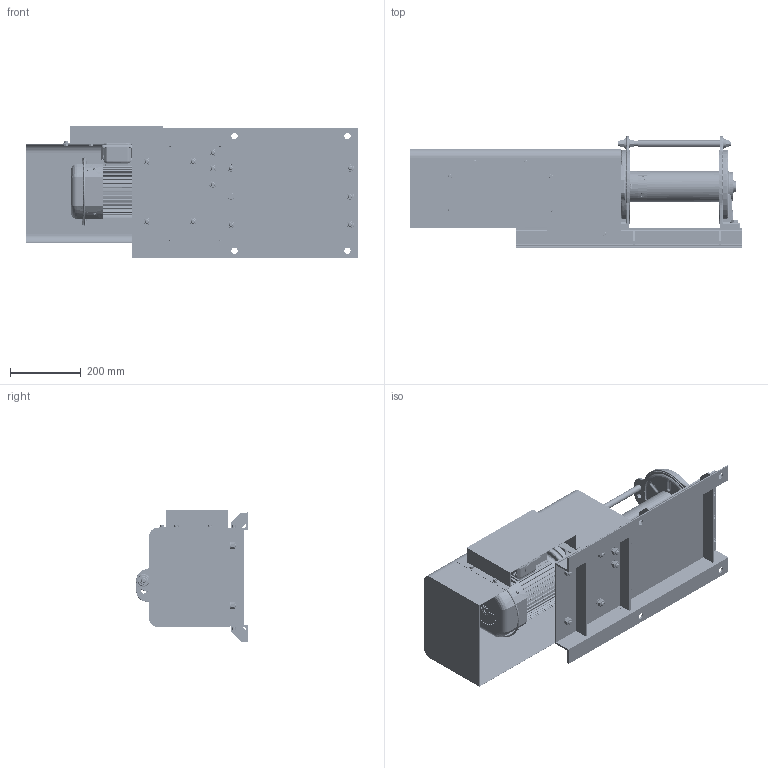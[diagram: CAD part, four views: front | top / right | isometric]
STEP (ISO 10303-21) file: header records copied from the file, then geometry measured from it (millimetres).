
FILE_DESCRIPTION( (''), '2;1');
FILE_NAME ('GME-700-NP.stp','2023-08-03T10:49:06',(''),(''),'spGate 19.8.2 (****-****-****-****)','','');
FILE_SCHEMA (('AUTOMOTIVE_DESIGN'));
Length unit declared in the file: millimetre
Products named in the file (2): Assembly; GME-700-NP-prt0
Assembly tree (1 placements, depth 2):
  Assembly
    GME-700-NP-prt0
Bounding box: 940.5 x 316 x 376 mm (x, y, z)
Volume: 14381939.2 mm3; surface area: 3017046.1 mm2
Topology: 1 solids, 1 shells, 4047 faces, 10549 edges, 6718 vertices
Faces by surface type: plane 1836, cylinder 1349, bspline 768, sphere 94
Entity records: 252486 total; most frequent: CARTESIAN_POINT 76054, ORIENTED_EDGE 20944, DIRECTION 18111, COLOUR_RGB 14519, PRESENTATION_STYLE_ASSIGNMENT 14519, STYLED_ITEM 14519, EDGE_CURVE 10472, DRAUGHTING_PRE_DEFINED_CURVE_FONT 10472
